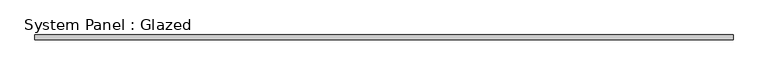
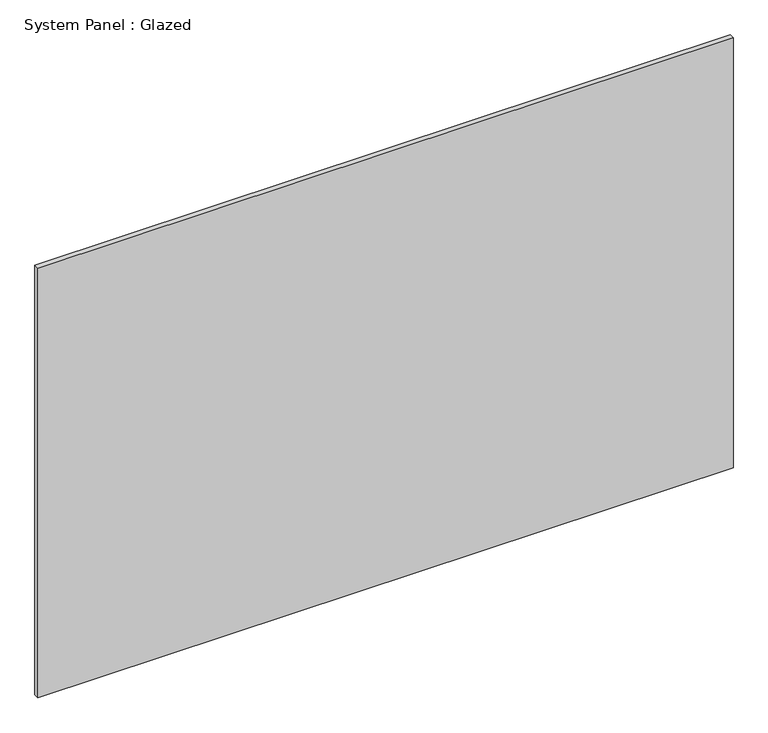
"""IFC4 building model written with IfcOpenShell, lengths in millimetres: plate geometry, System Panel : Glazed."""

from ifc_helpers import new_model, si_unit, origin, origin_with_axes, place, context, project, spatial, polyline, outline, extrude, source, transform, mapped, element, save


def system_panel_glazed_5ff88c7e(model_context):
    return source(origin(), model_context, "Body", "SweptSolid", [
        extrude(outline(polyline([(692.5154615, -5.0), (-692.5154615, -5.0), (-692.5154615, 5.0), (692.5154615, 5.0), (692.5154615, -5.0)])), origin_with_axes(), (0.0, 0.0, 1.0), 905.0),
    ])


if __name__ == "__main__":
    model = new_model("IFC4")
    model_context = context("Model", 3, world=origin())
    ifc_project = project(units=[si_unit("LENGTHUNIT", "METRE", prefix="MILLI")], contexts=[model_context])
    site = spatial("IfcSite", under=ifc_project)
    building = spatial("IfcBuilding", under=site)
    placement = place(None, origin())
    system_panel_glazed_shape = system_panel_glazed_5ff88c7e(model_context)
    element("IfcPlate", 1, ObjectType="System Panel : Glazed", at=placement, inside=building, context=model_context, shape_type="MappedRepresentation", body=[
        mapped(system_panel_glazed_shape, transform((0.0, 0.0, 0.0), x_axis=(1.0, 0.0, 0.0), y_axis=(0.0, 1.0, 0.0), z_axis=(0.0, 0.0, 1.0))),
    ])
    save(model, "model.ifc")
